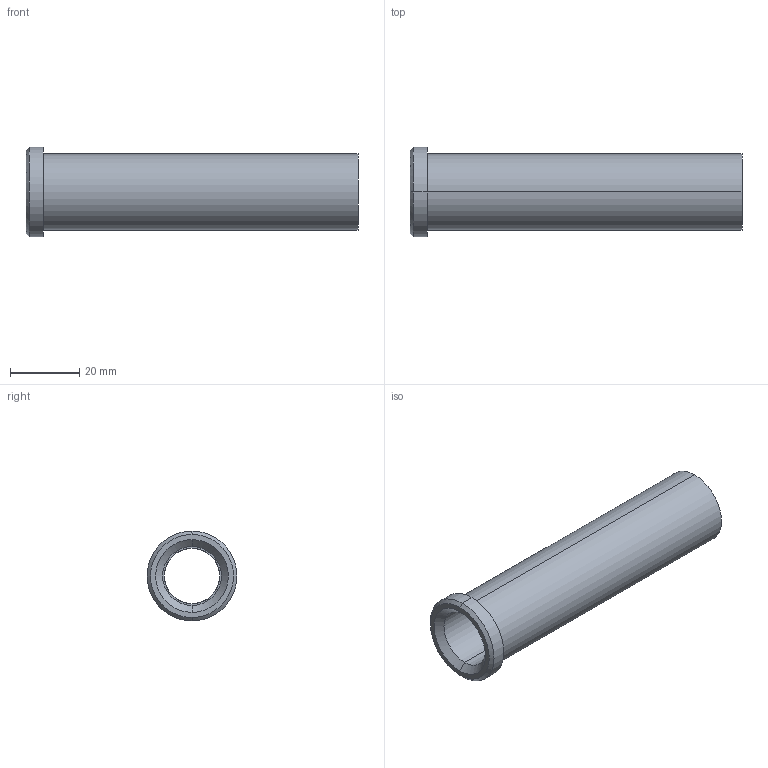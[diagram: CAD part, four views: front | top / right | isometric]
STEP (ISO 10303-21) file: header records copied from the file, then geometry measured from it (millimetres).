
FILE_DESCRIPTION(('CATIA V5 STEP Exchange'),'2;1');
FILE_NAME('C:\Users\Utente\Desktop\IO LAVORO\3D X SITO CF\X SITO\PLASTICA\353\353-16X96.stp','2021-05-04T18:20:56+00:00',('none'),('none'),'CATIA Version 5 Release 20 GA (IN-10)','CATIA V5 STEP AP203','none');
FILE_SCHEMA(('CONFIG_CONTROL_DESIGN'));
Length unit declared in the file: millimetre
Products named in the file (1): 353-16X96
Bounding box: 96 x 26 x 26 mm (x, y, z)
Volume: 16119.9 mm3; surface area: 12256.5 mm2
Topology: 1 solids, 1 shells, 18 faces, 58 edges, 44 vertices
Faces by surface type: cylinder 8, plane 4, cone 4, torus 2
Entity records: 840 total; most frequent: CARTESIAN_POINT 289, ORIENTED_EDGE 116, DIRECTION 82, EDGE_CURVE 58, AXIS2_PLACEMENT_3D 53, VERTEX_POINT 44, CIRCLE 34, EDGE_LOOP 22
